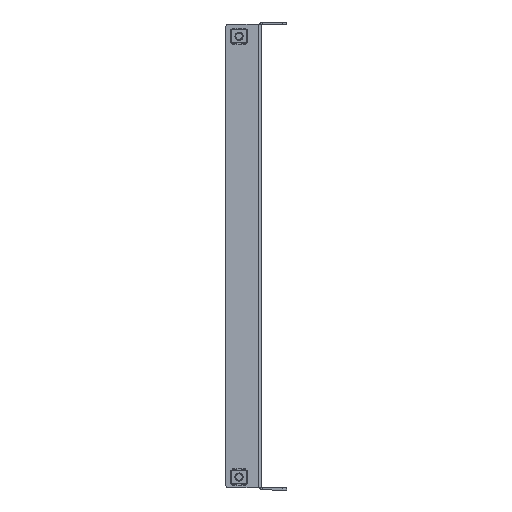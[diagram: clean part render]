
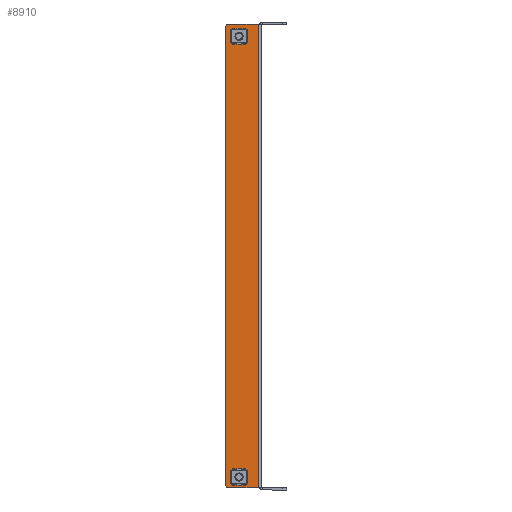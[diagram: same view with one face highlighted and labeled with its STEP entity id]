
A CAD part, left-side view. The second image highlights one B-rep face of the part: STEP entity #8910.
In plain terms, the highlighted planar face has unit normal (-1, 0, 0).
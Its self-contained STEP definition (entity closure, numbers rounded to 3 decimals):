
#78 = EDGE_CURVE ( 'NONE', #9118, #5876, #6581, .T. ) ;
#246 = CARTESIAN_POINT ( 'NONE',  ( -149.5, 0., 0. ) ) ;
#444 = CARTESIAN_POINT ( 'NONE',  ( -149.5, 15., -162.5 ) ) ;
#775 = VERTEX_POINT ( 'NONE', #6099 ) ;
#851 = VERTEX_POINT ( 'NONE', #2199 ) ;
#1083 = VERTEX_POINT ( 'NONE', #10855 ) ;
#1101 = VERTEX_POINT ( 'NONE', #4214 ) ;
#1558 = LINE ( 'NONE', #1615, #3434 ) ;
#1598 = EDGE_CURVE ( 'NONE', #1083, #6450, #6425, .T. ) ;
#1615 = CARTESIAN_POINT ( 'NONE',  ( -149.5, 25., 170.5 ) ) ;
#1653 = CARTESIAN_POINT ( 'NONE',  ( -149.5, 0.75, 0. ) ) ;
#1699 = EDGE_CURVE ( 'NONE', #851, #1101, #6551, .T. ) ;
#1702 = CARTESIAN_POINT ( 'NONE',  ( -149.5, 18.5, -162.5 ) ) ;
#1791 = CARTESIAN_POINT ( 'NONE',  ( -149.5, 11.5, -162.5 ) ) ;
#1811 = DIRECTION ( 'NONE',  ( -1., 0., 0. ) ) ;
#2160 = CARTESIAN_POINT ( 'NONE',  ( -149.5, 25., 167.5 ) ) ;
#2167 = DIRECTION ( 'NONE',  ( 0., 1., 0. ) ) ;
#2199 = CARTESIAN_POINT ( 'NONE',  ( -149.5, 25., -167.5 ) ) ;
#2410 = DIRECTION ( 'NONE',  ( 0., 1., 0. ) ) ;
#2558 = DIRECTION ( 'NONE',  ( 0., -1., 0. ) ) ;
#2690 = EDGE_CURVE ( 'NONE', #6450, #11053, #4925, .T. ) ;
#2712 = LINE ( 'NONE', #9758, #5269 ) ;
#2824 = DIRECTION ( 'NONE',  ( 0., 1., 0. ) ) ;
#2829 = VERTEX_POINT ( 'NONE', #1702 ) ;
#2987 = CARTESIAN_POINT ( 'NONE',  ( -149.5, 15., -162.5 ) ) ;
#3021 = EDGE_CURVE ( 'NONE', #4480, #1083, #10126, .T. ) ;
#3163 = EDGE_CURVE ( 'NONE', #775, #9118, #1558, .T. ) ;
#3434 = VECTOR ( 'NONE', #4082, 1000. ) ;
#3500 = EDGE_LOOP ( 'NONE', ( #8582, #4617, #4154, #9884, #4239, #6362 ) ) ;
#3557 = DIRECTION ( 'NONE',  ( 0., 1., 0. ) ) ;
#3641 = CARTESIAN_POINT ( 'NONE',  ( -149.5, 18.5, 163.5 ) ) ;
#3776 = AXIS2_PLACEMENT_3D ( 'NONE', #2987, #8958, #3842 ) ;
#3842 = DIRECTION ( 'NONE',  ( 0., 1., 0. ) ) ;
#3872 = VERTEX_POINT ( 'NONE', #9329 ) ;
#3979 = AXIS2_PLACEMENT_3D ( 'NONE', #4198, #6678, #2410 ) ;
#4082 = DIRECTION ( 'NONE',  ( 0., 1., 0. ) ) ;
#4104 = ORIENTED_EDGE ( 'NONE', *, *, #4774, .T. ) ;
#4154 = ORIENTED_EDGE ( 'NONE', *, *, #7767, .T. ) ;
#4198 = CARTESIAN_POINT ( 'NONE',  ( -149.5, 22., -167.5 ) ) ;
#4214 = CARTESIAN_POINT ( 'NONE',  ( -149.5, 22., -170.5 ) ) ;
#4236 = DIRECTION ( 'NONE',  ( 0., 0., -1. ) ) ;
#4239 = ORIENTED_EDGE ( 'NONE', *, *, #3163, .T. ) ;
#4295 = ORIENTED_EDGE ( 'NONE', *, *, #10605, .T. ) ;
#4335 = LINE ( 'NONE', #6792, #5802 ) ;
#4359 = CARTESIAN_POINT ( 'NONE',  ( -149.5, 22., 167.5 ) ) ;
#4480 = VERTEX_POINT ( 'NONE', #7847 ) ;
#4525 = CIRCLE ( 'NONE', #10584, 3.5 ) ;
#4581 = CARTESIAN_POINT ( 'NONE',  ( -149.5, 15., 161.5 ) ) ;
#4617 = ORIENTED_EDGE ( 'NONE', *, *, #1699, .T. ) ;
#4774 = EDGE_CURVE ( 'NONE', #6186, #2829, #9967, .T. ) ;
#4925 = CIRCLE ( 'NONE', #7499, 3.5 ) ;
#4941 = AXIS2_PLACEMENT_3D ( 'NONE', #246, #6234, #2824 ) ;
#4956 = VECTOR ( 'NONE', #10837, 1000. ) ;
#5156 = EDGE_LOOP ( 'NONE', ( #5958, #5960, #4295, #5226 ) ) ;
#5226 = ORIENTED_EDGE ( 'NONE', *, *, #3021, .T. ) ;
#5269 = VECTOR ( 'NONE', #8085, 1000. ) ;
#5287 = EDGE_LOOP ( 'NONE', ( #10464, #4104 ) ) ;
#5495 = FACE_OUTER_BOUND ( 'NONE', #3500, .T. ) ;
#5745 = AXIS2_PLACEMENT_3D ( 'NONE', #4581, #9809, #6303 ) ;
#5776 = CARTESIAN_POINT ( 'NONE',  ( -149.5, 22., 170.5 ) ) ;
#5802 = VECTOR ( 'NONE', #2558, 1000. ) ;
#5852 = EDGE_CURVE ( 'NONE', #5876, #851, #2712, .T. ) ;
#5876 = VERTEX_POINT ( 'NONE', #2160 ) ;
#5958 = ORIENTED_EDGE ( 'NONE', *, *, #1598, .T. ) ;
#5960 = ORIENTED_EDGE ( 'NONE', *, *, #2690, .T. ) ;
#6099 = CARTESIAN_POINT ( 'NONE',  ( -149.5, 0.75, 170.5 ) ) ;
#6186 = VERTEX_POINT ( 'NONE', #1791 ) ;
#6234 = DIRECTION ( 'NONE',  ( 1., 0., 0. ) ) ;
#6268 = VECTOR ( 'NONE', #4236, 1000. ) ;
#6303 = DIRECTION ( 'NONE',  ( 0., 1., 0. ) ) ;
#6362 = ORIENTED_EDGE ( 'NONE', *, *, #78, .T. ) ;
#6420 = VECTOR ( 'NONE', #9037, 1000. ) ;
#6425 = LINE ( 'NONE', #8822, #4956 ) ;
#6438 = DIRECTION ( 'NONE',  ( 1., 0., 0. ) ) ;
#6450 = VERTEX_POINT ( 'NONE', #3641 ) ;
#6551 = CIRCLE ( 'NONE', #3979, 3. ) ;
#6581 = CIRCLE ( 'NONE', #10918, 3. ) ;
#6678 = DIRECTION ( 'NONE',  ( -1., 0., 0. ) ) ;
#6792 = CARTESIAN_POINT ( 'NONE',  ( -149.5, 0., -170.5 ) ) ;
#6866 = CARTESIAN_POINT ( 'NONE',  ( -149.5, 15., 163.5 ) ) ;
#6942 = FACE_BOUND ( 'NONE', #5156, .T. ) ;
#6987 = CARTESIAN_POINT ( 'NONE',  ( -149.5, 11.5, 163.5 ) ) ;
#7243 = CARTESIAN_POINT ( 'NONE',  ( -149.5, 11.5, 163.5 ) ) ;
#7499 = AXIS2_PLACEMENT_3D ( 'NONE', #6866, #7751, #7630 ) ;
#7598 = LINE ( 'NONE', #7243, #6420 ) ;
#7630 = DIRECTION ( 'NONE',  ( 0., 1., 0. ) ) ;
#7719 = LINE ( 'NONE', #1653, #6268 ) ;
#7751 = DIRECTION ( 'NONE',  ( 1., 0., 0. ) ) ;
#7767 = EDGE_CURVE ( 'NONE', #1101, #3872, #4335, .T. ) ;
#7847 = CARTESIAN_POINT ( 'NONE',  ( -149.5, 11.5, 161.5 ) ) ;
#8085 = DIRECTION ( 'NONE',  ( 0., 0., -1. ) ) ;
#8582 = ORIENTED_EDGE ( 'NONE', *, *, #5852, .T. ) ;
#8822 = CARTESIAN_POINT ( 'NONE',  ( -149.5, 18.5, 163.5 ) ) ;
#8910 = ADVANCED_FACE ( 'NONE', ( #6942, #9606, #5495 ), #10484, .F. ) ;
#8958 = DIRECTION ( 'NONE',  ( 1., 0., 0. ) ) ;
#9037 = DIRECTION ( 'NONE',  ( 0., 0., -1. ) ) ;
#9118 = VERTEX_POINT ( 'NONE', #5776 ) ;
#9313 = EDGE_CURVE ( 'NONE', #775, #3872, #7719, .T. ) ;
#9329 = CARTESIAN_POINT ( 'NONE',  ( -149.5, 0.75, -170.5 ) ) ;
#9606 = FACE_BOUND ( 'NONE', #5287, .T. ) ;
#9642 = EDGE_CURVE ( 'NONE', #2829, #6186, #4525, .T. ) ;
#9758 = CARTESIAN_POINT ( 'NONE',  ( -149.5, 25., -170.5 ) ) ;
#9809 = DIRECTION ( 'NONE',  ( 1., 0., 0. ) ) ;
#9884 = ORIENTED_EDGE ( 'NONE', *, *, #9313, .F. ) ;
#9967 = CIRCLE ( 'NONE', #3776, 3.5 ) ;
#10126 = CIRCLE ( 'NONE', #5745, 3.5 ) ;
#10464 = ORIENTED_EDGE ( 'NONE', *, *, #9642, .T. ) ;
#10484 = PLANE ( 'NONE',  #4941 ) ;
#10584 = AXIS2_PLACEMENT_3D ( 'NONE', #444, #6438, #2167 ) ;
#10605 = EDGE_CURVE ( 'NONE', #11053, #4480, #7598, .T. ) ;
#10837 = DIRECTION ( 'NONE',  ( 0., 0., 1. ) ) ;
#10855 = CARTESIAN_POINT ( 'NONE',  ( -149.5, 18.5, 161.5 ) ) ;
#10918 = AXIS2_PLACEMENT_3D ( 'NONE', #4359, #1811, #3557 ) ;
#11053 = VERTEX_POINT ( 'NONE', #6987 ) ;
